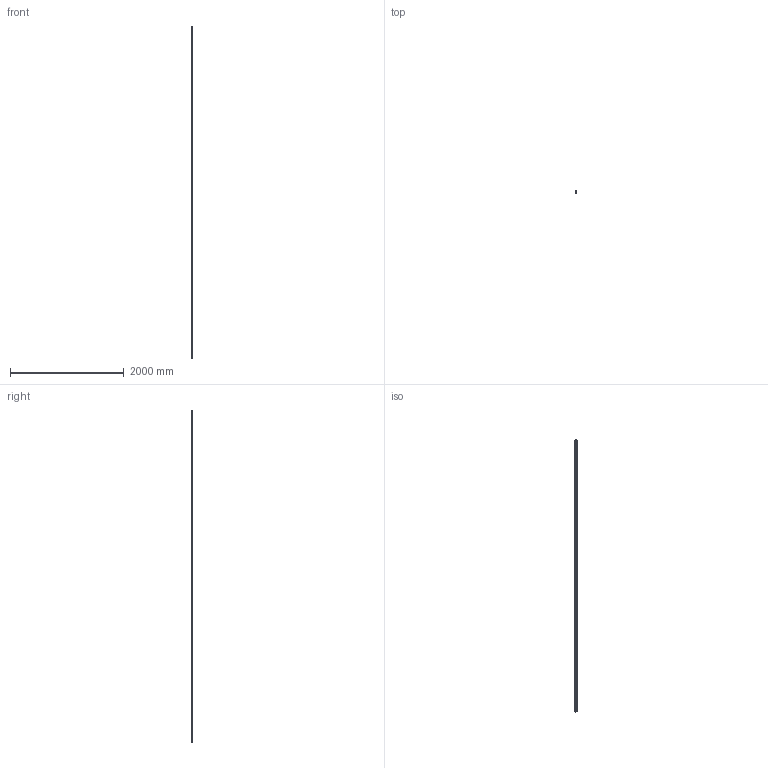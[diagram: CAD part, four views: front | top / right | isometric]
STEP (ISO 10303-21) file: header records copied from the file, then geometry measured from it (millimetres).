
FILE_DESCRIPTION((''),'2;1');
FILE_NAME('KUGELSCHIENE_CS_ASM','2021-10-14T09:54:38',('ac91sw'),(''),'CREO PARAMETRIC BY PTC INC, 2020044','CREO PARAMETRIC BY PTC INC, 2020044','');
FILE_SCHEMA(('AUTOMOTIVE_DESIGN { 1 0 10303 214 1 1 1 1 }'));
Length unit declared in the file: millimetre
Products named in the file (3): KUGELSCHIENE_CS_SKEL; KUGELSCHIENE_CS_RAIL1; KUGELSCHIENE_CS_ASM
Assembly tree (2 placements, depth 2):
  KUGELSCHIENE_CS_ASM
    KUGELSCHIENE_CS_SKEL
    KUGELSCHIENE_CS_RAIL1
Bounding box: 34 x 31.85 x 5836 mm (x, y, z)
Volume: 5181364.7 mm3; surface area: 854900.8 mm2
Topology: 1 solids, 74 shells, 589 faces, 1490 edges, 903 vertices
Faces by surface type: cylinder 296, cone 154, plane 139
Entity records: 18586 total; most frequent: DIRECTION 3266, CARTESIAN_POINT 2911, ORIENTED_EDGE 2396, EDGE_CURVE 1344, AXIS2_PLACEMENT_3D 1342, VERTEX_POINT 903, CIRCLE 746, EDGE_LOOP 735
